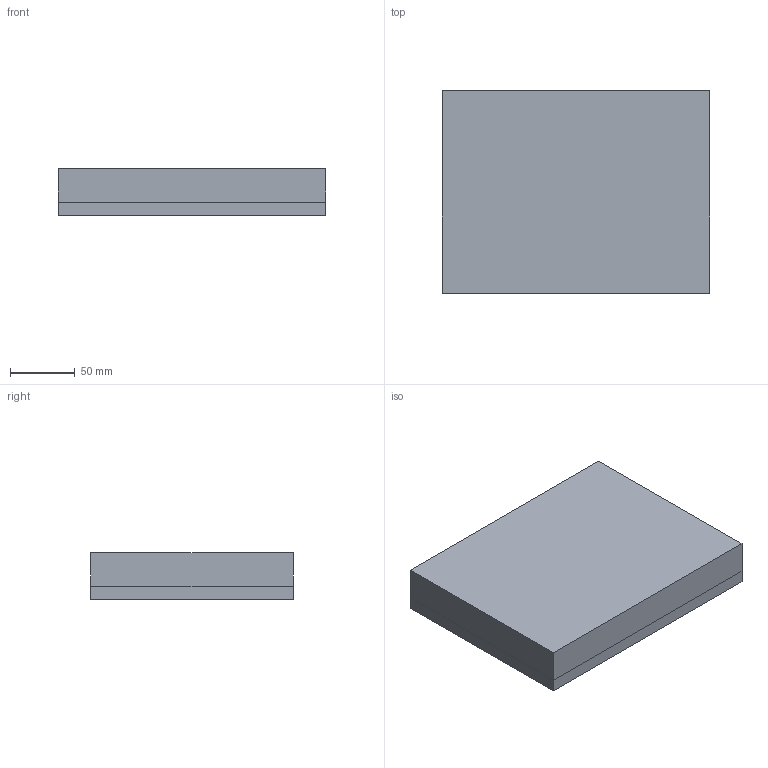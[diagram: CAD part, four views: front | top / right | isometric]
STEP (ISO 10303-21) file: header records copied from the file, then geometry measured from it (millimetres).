
FILE_DESCRIPTION(('CATIA V5 STEP Exchange'),'2;1');
FILE_NAME('C:\_Andres\UNIVERSIDAD\IQS\ASIGNATURAS\DAO\Controles\1920\c2\c2-Cano_Vazquez_Aitor.stp','2020-02-10T15:37:53+00:00',('none'),('none'),'CATIA Version 5 Release 19 SP 3 (IN-10)','CATIA V5 STEP AP203','none');
FILE_SCHEMA(('CONFIG_CONTROL_DESIGN'));
Length unit declared in the file: millimetre
Products named in the file (1): c2-Cano_Vazquez_Aitor
Bounding box: 206 x 156 x 36 mm (x, y, z)
Surface area: 222885.8 mm2
Topology: 3 solids, 3 shells, 103 faces, 232 edges, 128 vertices
Faces by surface type: cylinder 40, plane 27, bspline 24, sphere 12
Entity records: 3348 total; most frequent: CARTESIAN_POINT 1636, ORIENTED_EDGE 440, DIRECTION 224, EDGE_CURVE 164, EDGE_LOOP 110, ADVANCED_FACE 103, FACE_OUTER_BOUND 103, AXIS2_PLACEMENT_3D 96
